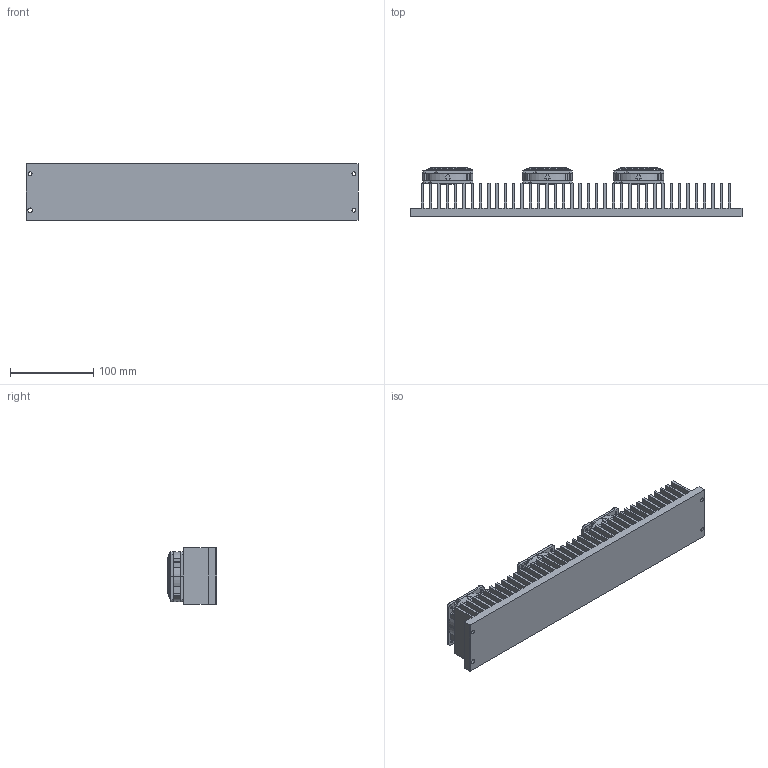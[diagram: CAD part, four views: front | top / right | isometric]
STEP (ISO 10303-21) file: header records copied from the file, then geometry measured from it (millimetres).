
FILE_DESCRIPTION(('STEP AP214'),'1');
FILE_NAME('Dissipatore.stp','2018-09-04T08:20:49',(' '),(' '),'Spatial InterOp 3D',' ',' ');
FILE_SCHEMA(('automotive_design'));
Length unit declared in the file: metre
Products named in the file (4): Dissipatore; ventola 1; Griglia
Assembly tree (7 placements, depth 2):
  Dissipatore
    Dissipatore
    ventola 1  x3
    Griglia  x3
Bounding box: 400 x 59.2 x 68 mm (x, y, z)
Volume: 557097.3 mm3; surface area: 286817.5 mm2
Topology: 7 solids, 7 shells, 984 faces, 2805 edges, 1853 vertices
Faces by surface type: plane 419, cylinder 352, bspline 105, torus 102, cone 6
Entity records: 21624 total; most frequent: CARTESIAN_POINT 6512, ORIENTED_EDGE 2530, DIRECTION 2144, EDGE_CURVE 1265, VERTEX_POINT 839, LINE 788, VECTOR 788, AXIS2_PLACEMENT_3D 678
